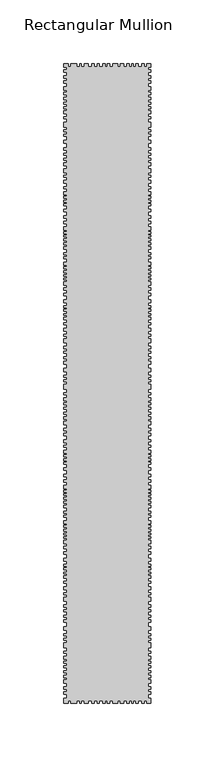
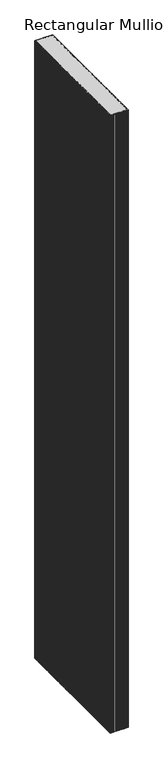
"""IFC4 building model written with IfcOpenShell, lengths in millimetres: member geometry, Rectangular Mullion : DucoSun Cubic Design louvre 500."""

from ifc_helpers import new_model, si_unit, frame, origin, place, context, project, spatial, polyline, outline, extrude, source, transform, mapped, element, save


def rectangular_mullion_82132d08(model_context):
    return source(origin(), model_context, "Body", "SweptSolid", [
        extrude(outline(polyline([(-68.0, 497.3782451), (-68.0, 500.0), (-64.4544414, 500.0), (-64.4544414, 498.0), (-62.627942, 498.0), (-62.627942, 500.0), (-57.9842994, 500.0), (-57.9842994, 498.0), (-55.8172663, 498.0), (-55.8172663, 500.0), (-54.3003431, 500.0), (-54.3003431, 498.0), (-51.9475642, 498.0), (-51.9475642, 500.0), (-48.8827601, 500.0), (-48.8827601, 498.0), (-46.0965746, 498.0), (-46.0965746, 500.0), (-44.3939057, 500.0), (-44.3939057, 498.0), (-42.0101692, 498.0), (-42.0101692, 500.0), (-40.5242036, 500.0), (-40.5242036, 498.0), (-37.4884678, 498.0), (-37.4884678, 500.0), (-35.7094289, 500.0), (-35.7094289, 498.0), (-34.0, 498.0), (-34.0, 500.0), (-32.1513512, 500.0), (-32.1513512, 498.0), (-29.7871022, 498.0), (-29.7871022, 500.0), (-26.0183489, 500.0), (-26.0183489, 498.0), (-23.9584092, 498.0), (-23.9584092, 500.0), (-21.2664425, 500.0), (-21.2664425, 498.0), (-18.9958271, 498.0), (-18.9958271, 500.0), (-17.1231547, 500.0), (-17.1231547, 498.0), (-15.0632149, 498.0), (-15.0632149, 500.0), (-13.7289358, 500.0), (-13.7289358, 498.0), (-11.6924045, 498.0), (-11.6924045, 500.0), (-10.1006329, 500.0), (-10.1006329, 498.0), (-7.0341317, 498.0), (-7.0341317, 500.0), (-5.0678256, 500.0), (-5.0678256, 498.0), (-3.1249279, 498.0), (-3.1249279, 500.0), (0.0, 500.0), (0.0, 497.3782451), (-2.0, 497.3782451), (-2.0, 495.4241521), (0.0, 495.4241521), (0.0, 493.6532553), (-2.0, 493.6532553), (-2.0, 490.9460223), (0.0, 490.9460223), (0.0, 488.9105087), (-2.0, 488.9105087), (-2.0, 486.7121541), (0.0, 486.7121541), (0.0, 485.0023227), (-2.0, 485.0023227), (-2.0, 482.3561551), (0.0, 482.3561551), (0.0, 479.3843053), (-2.0, 479.3843053), (-2.0, 477.8917893), (0.0, 477.8917893), (0.0, 475.8425117), (-2.0, 475.8425117), (-2.0, 473.8680636), (0.0, 473.8680636), (0.0, 472.1582322), (-2.0, 472.1582322), (-2.0, 470.0820083), (0.0, 470.0820083), (0.0, 468.3111116), (-2.0, 468.3111116), (-2.0, 466.4995045), (0.0, 466.4995045), (0.0, 465.0713495), (-2.0, 465.0713495), (-2.0, 463.4577392), (0.0, 463.4577392), (0.0, 461.0328231), (-2.0, 461.0328231), (-2.0, 458.5725067), (0.0, 458.5725067), (0.0, 457.0325964), (-2.0, 457.0325964), (-2.0, 454.5014796), (0.0, 454.5014796), (0.0, 450.4127524), (-2.0, 450.4127524), (-2.0, 448.4126391), (0.0, 448.4126391), (0.0, 446.8373286), (-2.0, 446.8373286), (-2.0, 444.9965163), (0.0, 444.9965163), (0.0, 443.3504053), (-2.0, 443.3504053), (-2.0, 440.3767855), (0.0, 440.3767855), (0.0, 437.9545244), (-2.0, 437.9545244), (-2.0, 434.5552168), (0.0, 434.5552168), (0.0, 432.5197032), (-2.0, 432.5197032), (-2.0, 430.239928), (0.0, 430.239928), (0.0, 428.6929377), (-2.0, 428.6929377), (-2.0, 426.4335177), (0.0, 426.4335177), (0.0, 424.5608452), (-2.0, 424.5608452), (-2.0, 422.6271073), (0.0, 422.6271073), (0.0, 420.5508835), (-2.0, 420.5508835), (-2.0, 418.0064916), (0.0, 418.0064916), (0.0, 414.9328661), (-2.0, 414.9328661), (-2.0, 412.9177077), (0.0, 412.9177077), (0.0, 411.4114277), (-2.0, 411.4114277), (-2.0, 408.9688114), (0.0, 408.9688114), (0.0, 406.7118273), (-2.0, 406.7118273), (-2.0, 403.8852623), (0.0, 403.8852623), (0.0, 402.4316003), (-2.0, 402.4316003), (-2.0, 399.9011516), (0.0, 399.9011516), (0.0, 397.8552569), (-2.0, 397.8552569), (-2.0, 396.6169522), (0.0, 396.6169522), (0.0, 395.0825312), (-2.0, 395.0825312), (-2.0, 393.4673512), (0.0, 393.4673512), (0.0, 392.0675286), (-2.0, 392.0675286), (-2.0, 390.5869469), (0.0, 390.5869469), (0.0, 389.1602046), (-2.0, 389.1602046), (-2.0, 386.3310055), (0.0, 386.3310055), (0.0, 384.2608252), (-2.0, 384.2608252), (-2.0, 381.1919832), (0.0, 381.1919832), (0.0, 379.2537672), (-2.0, 379.2537672), (-2.0, 376.9360418), (0.0, 376.9360418), (0.0, 375.0004598), (-2.0, 375.0004598), (-2.0, 372.9007258), (0.0, 372.9007258), (0.0, 370.1010805), (-2.0, 370.1010805), (-2.0, 368.8089365), (0.0, 368.8089365), (0.0, 367.3014351), (-2.0, 367.3014351), (-2.0, 366.0362108), (0.0, 366.0362108), (0.0, 365.0401831), (-2.0, 365.0401831), (-2.0, 363.2096458), (0.0, 363.2096458), (0.0, 361.6483051), (-2.0, 361.6483051), (-2.0, 360.1408038), (0.0, 360.1408038), (0.0, 358.6063828), (-2.0, 358.6063828), (-2.0, 357.0719618), (0.0, 357.0719618), (0.0, 355.0799064), (-2.0, 355.0799064), (-2.0, 352.3762692), (0.0, 352.3762692), (0.0, 350.8903036), (-2.0, 350.8903036), (-2.0, 349.1257194), (0.0, 349.1257194), (0.0, 347.6087962), (-2.0, 347.6087962), (-2.0, 344.8535683), (0.0, 344.8535683), (0.0, 342.7484504), (-2.0, 342.7484504), (-2.0, 341.4172729), (0.0, 341.4172729), (0.0, 339.9622649), (-2.0, 339.9622649), (-2.0, 338.3524688), (0.0, 338.3524688), (0.0, 336.8355456), (-2.0, 336.8355456), (-2.0, 335.1947919), (0.0, 335.1947919), (0.0, 333.9255296), (-2.0, 333.9255296), (-2.0, 332.5014792), (0.0, 332.5014792), (0.0, 331.1083865), (-2.0, 331.1083865), (-2.0, 329.6843361), (0.0, 329.6843361), (0.0, 327.0529387), (-2.0, 327.0529387), (-2.0, 324.9787784), (0.0, 324.9787784), (0.0, 323.0284485), (-2.0, 323.0284485), (-2.0, 320.7995001), (0.0, 320.7995001), (0.0, 318.8182126), (-2.0, 318.8182126), (-2.0, 315.6914933), (0.0, 315.6914933), (0.0, 313.4935025), (-2.0, 313.4935025), (-2.0, 310.954978), (0.0, 310.954978), (0.0, 309.4070971), (-2.0, 309.4070971), (-2.0, 308.1378348), (0.0, 308.1378348), (0.0, 306.4970812), (-2.0, 306.4970812), (-2.0, 304.8253698), (0.0, 304.8253698), (0.0, 303.3394042), (-2.0, 303.3394042), (-2.0, 302.0391843), (0.0, 302.0391843), (0.0, 300.0578969), (-2.0, 300.0578969), (-2.0, 297.6741604), (0.0, 297.6741604), (0.0, 296.0953219), (-2.0, 296.0953219), (-2.0, 293.3091364), (0.0, 293.3091364), (0.0, 291.0182728), (-2.0, 291.0182728), (-2.0, 288.572621), (0.0, 288.572621), (0.0, 287.1485707), (-2.0, 287.1485707), (-2.0, 285.0124951), (0.0, 285.0124951), (0.0, 282.1643944), (-2.0, 282.1643944), (-2.0, 279.3782089), (0.0, 279.3782089), (0.0, 277.427879), (-2.0, 277.427879), (-2.0, 275.4156339), (0.0, 275.4156339), (0.0, 273.6510498), (-2.0, 273.6510498), (-2.0, 271.1744404), (0.0, 271.1744404), (0.0, 269.6884748), (-2.0, 269.6884748), (-2.0, 267.5523993), (0.0, 267.5523993), (0.0, 265.4163237), (-2.0, 265.4163237), (-2.0, 262.1967316), (0.0, 262.1967316), (0.0, 259.5343765), (-2.0, 259.5343765), (-2.0, 256.7791486), (0.0, 256.7791486), (0.0, 255.0764797), (-2.0, 255.0764797), (-2.0, 252.9404041), (0.0, 252.9404041), (0.0, 251.6092266), (-2.0, 251.6092266), (-2.0, 249.5660239), (0.0, 249.5660239), (0.0, 245.512038), (-2.0, 245.512038), (-2.0, 243.0030092), (0.0, 243.0030092), (0.0, 241.3312979), (-2.0, 241.3312979), (-2.0, 239.0404342), (0.0, 239.0404342), (0.0, 236.5638249), (-2.0, 236.5638249), (-2.0, 235.015944), (0.0, 235.015944), (0.0, 233.5609361), (-2.0, 233.5609361), (-2.0, 231.5796486), (0.0, 231.5796486), (0.0, 230.0627254), (-2.0, 230.0627254), (-2.0, 227.8337769), (0.0, 227.8337769), (0.0, 226.1620656), (-2.0, 226.1620656), (-2.0, 224.0259901), (0.0, 224.0259901), (0.0, 222.0756602), (-2.0, 222.0756602), (-2.0, 220.6516099), (0.0, 220.6516099), (0.0, 217.7415939), (-2.0, 217.7415939), (-2.0, 215.2030693), (0.0, 215.2030693), (0.0, 213.1908242), (-2.0, 213.1908242), (-2.0, 211.2404944), (0.0, 211.2404944), (0.0, 209.1353764), (-2.0, 209.1353764), (-2.0, 206.2563181), (0.0, 206.2563181), (0.0, 204.6155644), (-2.0, 204.6155644), (-2.0, 201.7889994), (0.0, 201.7889994), (0.0, 200.3353374), (-2.0, 200.3353374), (-2.0, 197.8048887), (0.0, 197.8048887), (0.0, 195.758994), (-2.0, 195.758994), (-2.0, 194.5206893), (0.0, 194.5206893), (0.0, 192.9862683), (-2.0, 192.9862683), (-2.0, 191.3710883), (0.0, 191.3710883), (0.0, 189.9712657), (-2.0, 189.9712657), (-2.0, 188.490684), (0.0, 188.490684), (0.0, 187.0639417), (-2.0, 187.0639417), (-2.0, 184.2347426), (0.0, 184.2347426), (0.0, 182.1645623), (-2.0, 182.1645623), (-2.0, 179.0957203), (0.0, 179.0957203), (0.0, 177.1575043), (-2.0, 177.1575043), (-2.0, 174.8397789), (0.0, 174.8397789), (0.0, 172.9041969), (-2.0, 172.9041969), (-2.0, 170.8044629), (0.0, 170.8044629), (0.0, 168.0048176), (-2.0, 168.0048176), (-2.0, 166.7126736), (0.0, 166.7126736), (0.0, 165.2051722), (-2.0, 165.2051722), (-2.0, 163.9399479), (0.0, 163.9399479), (0.0, 162.9439202), (-2.0, 162.9439202), (-2.0, 161.1133829), (0.0, 161.1133829), (0.0, 159.5520422), (-2.0, 159.5520422), (-2.0, 158.0445409), (0.0, 158.0445409), (0.0, 156.5101199), (-2.0, 156.5101199), (-2.0, 154.9756989), (0.0, 154.9756989), (0.0, 152.9836435), (-2.0, 152.9836435), (-2.0, 150.2800063), (0.0, 150.2800063), (0.0, 148.7940407), (-2.0, 148.7940407), (-2.0, 147.0294565), (0.0, 147.0294565), (0.0, 145.5125333), (-2.0, 145.5125333), (-2.0, 142.7573054), (0.0, 142.7573054), (0.0, 140.6521875), (-2.0, 140.6521875), (-2.0, 139.32101), (0.0, 139.32101), (0.0, 137.866002), (-2.0, 137.866002), (-2.0, 136.2562059), (0.0, 136.2562059), (0.0, 134.7392827), (-2.0, 134.7392827), (-2.0, 133.098529), (0.0, 133.098529), (0.0, 131.8292667), (-2.0, 131.8292667), (-2.0, 130.4052163), (0.0, 130.4052163), (0.0, 129.0121236), (-2.0, 129.0121236), (-2.0, 127.5880732), (0.0, 127.5880732), (0.0, 124.9566758), (-2.0, 124.9566758), (-2.0, 122.8825155), (0.0, 122.8825155), (0.0, 120.9321856), (-2.0, 120.9321856), (-2.0, 118.7032372), (0.0, 118.7032372), (0.0, 116.7219497), (-2.0, 116.7219497), (-2.0, 113.5952304), (0.0, 113.5952304), (0.0, 111.3972396), (-2.0, 111.3972396), (-2.0, 108.8587151), (0.0, 108.8587151), (0.0, 107.3108342), (-2.0, 107.3108342), (-2.0, 106.0415719), (0.0, 106.0415719), (0.0, 104.4008183), (-2.0, 104.4008183), (-2.0, 102.7291069), (0.0, 102.7291069), (0.0, 101.2431413), (-2.0, 101.2431413), (-2.0, 99.9429214), (0.0, 99.9429214), (0.0, 97.961634), (-2.0, 97.961634), (-2.0, 95.5778975), (0.0, 95.5778975), (0.0, 93.999059), (-2.0, 93.999059), (-2.0, 91.2128735), (0.0, 91.2128735), (0.0, 88.9220099), (-2.0, 88.9220099), (-2.0, 86.4763581), (0.0, 86.4763581), (0.0, 85.0523078), (-2.0, 85.0523078), (-2.0, 82.9162322), (0.0, 82.9162322), (0.0, 80.0681315), (-2.0, 80.0681315), (-2.0, 77.281946), (0.0, 77.281946), (0.0, 75.3316161), (-2.0, 75.3316161), (-2.0, 73.319371), (0.0, 73.319371), (0.0, 71.5547869), (-2.0, 71.5547869), (-2.0, 69.0781775), (0.0, 69.0781775), (0.0, 67.5922119), (-2.0, 67.5922119), (-2.0, 65.4561364), (0.0, 65.4561364), (0.0, 63.3200608), (-2.0, 63.3200608), (-2.0, 60.1004687), (0.0, 60.1004687), (0.0, 57.4381136), (-2.0, 57.4381136), (-2.0, 54.6828857), (0.0, 54.6828857), (0.0, 52.9802168), (-2.0, 52.9802168), (-2.0, 50.8441412), (0.0, 50.8441412), (0.0, 49.5129637), (-2.0, 49.5129637), (-2.0, 47.469761), (0.0, 47.469761), (0.0, 43.4157751), (-2.0, 43.4157751), (-2.0, 40.9067463), (0.0, 40.9067463), (0.0, 39.235035), (-2.0, 39.235035), (-2.0, 36.9441713), (0.0, 36.9441713), (0.0, 34.467562), (-2.0, 34.467562), (-2.0, 32.9196811), (0.0, 32.9196811), (0.0, 31.4646731), (-2.0, 31.4646731), (-2.0, 29.4833857), (0.0, 29.4833857), (0.0, 27.9664625), (-2.0, 27.9664625), (-2.0, 25.737514), (0.0, 25.737514), (0.0, 24.0658027), (-2.0, 24.0658027), (-2.0, 21.9297272), (0.0, 21.9297272), (0.0, 19.9793973), (-2.0, 19.9793973), (-2.0, 18.555347), (0.0, 18.555347), (0.0, 15.645331), (-2.0, 15.645331), (-2.0, 13.1068064), (0.0, 13.1068064), (0.0, 11.0945613), (-2.0, 11.0945613), (-2.0, 9.1442315), (0.0, 9.1442315), (0.0, 7.0391135), (-2.0, 7.0391135), (-2.0, 4.0), (0.0, 4.0), (0.0, 0.0), (-3.1249279, 0.0), (-3.1249279, 2.0), (-5.0678256, 2.0), (-5.0678256, 0.0), (-7.0341317, 0.0), (-7.0341317, 2.0), (-10.1006329, 2.0), (-10.1006329, 0.0), (-11.6924045, 0.0), (-11.6924045, 2.0), (-13.7289358, 2.0), (-13.7289358, 0.0), (-15.0632149, 0.0), (-15.0632149, 2.0), (-17.1231547, 2.0), (-17.1231547, 0.0), (-18.9958271, 0.0), (-18.9958271, 2.0), (-21.2664425, 2.0), (-21.2664425, 0.0), (-23.9584092, 0.0), (-23.9584092, 2.0), (-26.0183489, 2.0), (-26.0183489, 0.0), (-29.7871022, 0.0), (-29.7871022, 2.0), (-32.1513512, 2.0), (-32.1513512, 0.0), (-34.0, 0.0), (-34.0, 2.0), (-35.7094289, 2.0), (-35.7094289, 0.0), (-37.4884678, 0.0), (-37.4884678, 2.0), (-40.5242036, 2.0), (-40.5242036, 0.0), (-42.0101692, 0.0), (-42.0101692, 2.0), (-44.3939057, 2.0), (-44.3939057, 0.0), (-46.0965746, 0.0), (-46.0965746, 2.0), (-48.8827601, 2.0), (-48.8827601, 0.0), (-51.9475642, 0.0), (-51.9475642, 2.0), (-54.3003431, 2.0), (-54.3003431, 0.0), (-55.8172663, 0.0), (-55.8172663, 2.0), (-57.9842994, 2.0), (-57.9842994, 0.0), (-62.627942, 0.0), (-62.627942, 2.0), (-64.4544414, 2.0), (-64.4544414, 0.0), (-68.0, 0.0), (-68.0, 4.0), (-66.0, 4.0), (-66.0, 7.0391135), (-68.0, 7.0391135), (-68.0, 9.1442315), (-66.0, 9.1442315), (-66.0, 11.0945613), (-68.0, 11.0945613), (-68.0, 13.1068064), (-66.0, 13.1068064), (-66.0, 15.645331), (-68.0, 15.645331), (-68.0, 18.555347), (-66.0, 18.555347), (-66.0, 19.9793973), (-68.0, 19.9793973), (-68.0, 21.9297272), (-66.0, 21.9297272), (-66.0, 24.0658027), (-68.0, 24.0658027), (-68.0, 25.737514), (-66.0, 25.737514), (-66.0, 27.9664625), (-68.0, 27.9664625), (-68.0, 29.4833857), (-66.0, 29.4833857), (-66.0, 31.4646731), (-68.0, 31.4646731), (-68.0, 32.9196811), (-66.0, 32.9196811), (-66.0, 34.467562), (-68.0, 34.467562), (-68.0, 36.9441713), (-66.0, 36.9441713), (-66.0, 39.235035), (-68.0, 39.235035), (-68.0, 40.9067463), (-66.0, 40.9067463), (-66.0, 43.4157751), (-68.0, 43.4157751), (-68.0, 47.469761), (-66.0, 47.469761), (-66.0, 49.5129637), (-68.0, 49.5129637), (-68.0, 50.8441412), (-66.0, 50.8441412), (-66.0, 52.9802168), (-68.0, 52.9802168), (-68.0, 54.6828857), (-66.0, 54.6828857), (-66.0, 57.4381136), (-68.0, 57.4381136), (-68.0, 60.1004687), (-66.0, 60.1004687), (-66.0, 63.3200608), (-68.0, 63.3200608), (-68.0, 65.4561364), (-66.0, 65.4561364), (-66.0, 67.5922119), (-68.0, 67.5922119), (-68.0, 69.0781775), (-66.0, 69.0781775), (-66.0, 71.5547869), (-68.0, 71.5547869), (-68.0, 73.319371), (-66.0, 73.319371), (-66.0, 75.3316161), (-68.0, 75.3316161), (-68.0, 77.281946), (-66.0, 77.281946), (-66.0, 80.0681315), (-68.0, 80.0681315), (-68.0, 82.9162322), (-66.0, 82.9162322), (-66.0, 85.0523078), (-68.0, 85.0523078), (-68.0, 86.4763581), (-66.0, 86.4763581), (-66.0, 88.9220099), (-68.0, 88.9220099), (-68.0, 91.2128735), (-66.0, 91.2128735), (-66.0, 93.999059), (-68.0, 93.999059), (-68.0, 95.5778975), (-66.0, 95.5778975), (-66.0, 97.961634), (-68.0, 97.961634), (-68.0, 99.9429214), (-66.0, 99.9429214), (-66.0, 101.2431413), (-68.0, 101.2431413), (-68.0, 102.7291069), (-66.0, 102.7291069), (-66.0, 104.4008183), (-68.0, 104.4008183), (-68.0, 106.0415719), (-66.0, 106.0415719), (-66.0, 107.3108342), (-68.0, 107.3108342), (-68.0, 108.8587151), (-66.0, 108.8587151), (-66.0, 111.3972396), (-68.0, 111.3972396), (-68.0, 113.5952304), (-66.0, 113.5952304), (-66.0, 116.7219497), (-68.0, 116.7219497), (-68.0, 118.7032372), (-66.0, 118.7032372), (-66.0, 120.9321856), (-68.0, 120.9321856), (-68.0, 122.8825155), (-66.0, 122.8825155), (-66.0, 124.9566758), (-68.0, 124.9566758), (-68.0, 127.5880732), (-66.0, 127.5880732), (-66.0, 129.0121236), (-68.0, 129.0121236), (-68.0, 130.4052163), (-66.0, 130.4052163), (-66.0, 131.8292667), (-68.0, 131.8292667), (-68.0, 133.098529), (-66.0, 133.098529), (-66.0, 134.7392827), (-68.0, 134.7392827), (-68.0, 136.2562059), (-66.0, 136.2562059), (-66.0, 137.866002), (-68.0, 137.866002), (-68.0, 139.32101), (-66.0, 139.32101), (-66.0, 140.6521875), (-68.0, 140.6521875), (-68.0, 142.7573054), (-66.0, 142.7573054), (-66.0, 145.5125333), (-68.0, 145.5125333), (-68.0, 147.0294565), (-66.0, 147.0294565), (-66.0, 148.7940407), (-68.0, 148.7940407), (-68.0, 150.2800063), (-66.0, 150.2800063), (-66.0, 152.9836435), (-68.0, 152.9836435), (-68.0, 154.9756989), (-66.0, 154.9756989), (-66.0, 156.5101199), (-68.0, 156.5101199), (-68.0, 158.0445409), (-66.0, 158.0445409), (-66.0, 159.5520422), (-68.0, 159.5520422), (-68.0, 161.1133829), (-66.0, 161.1133829), (-66.0, 162.9439202), (-68.0, 162.9439202), (-68.0, 163.9399479), (-66.0, 163.9399479), (-66.0, 165.2051722), (-68.0, 165.2051722), (-68.0, 166.7126736), (-66.0, 166.7126736), (-66.0, 168.0048176), (-68.0, 168.0048176), (-68.0, 170.8044629), (-66.0, 170.8044629), (-66.0, 172.9041969), (-68.0, 172.9041969), (-68.0, 174.8397789), (-66.0, 174.8397789), (-66.0, 177.1575043), (-68.0, 177.1575043), (-68.0, 179.0957203), (-66.0, 179.0957203), (-66.0, 182.1645623), (-68.0, 182.1645623), (-68.0, 184.2347426), (-66.0, 184.2347426), (-66.0, 187.0639417), (-68.0, 187.0639417), (-68.0, 188.490684), (-66.0, 188.490684), (-66.0, 189.9712657), (-68.0, 189.9712657), (-68.0, 191.3710883), (-66.0, 191.3710883), (-66.0, 192.9862683), (-68.0, 192.9862683), (-68.0, 194.5206893), (-66.0, 194.5206893), (-66.0, 195.758994), (-68.0, 195.758994), (-68.0, 197.8048887), (-66.0, 197.8048887), (-66.0, 200.3353374), (-68.0, 200.3353374), (-68.0, 201.7889994), (-66.0, 201.7889994), (-66.0, 203.7186411), (-68.0, 203.7186411), (-68.0, 206.2563181), (-66.0, 206.2563181), (-66.0, 209.1353764), (-68.0, 209.1353764), (-68.0, 211.2404944), (-66.0, 211.2404944), (-66.0, 213.1908242), (-68.0, 213.1908242), (-68.0, 215.2030693), (-66.0, 215.2030693), (-66.0, 217.7415939), (-68.0, 217.7415939), (-68.0, 220.6516099), (-66.0, 220.6516099), (-66.0, 222.0756602), (-68.0, 222.0756602), (-68.0, 224.0259901), (-66.0, 224.0259901), (-66.0, 226.1620656), (-68.0, 226.1620656), (-68.0, 227.8337769), (-66.0, 227.8337769), (-66.0, 230.0627254), (-68.0, 230.0627254), (-68.0, 231.5796486), (-66.0, 231.5796486), (-66.0, 233.5609361), (-68.0, 233.5609361), (-68.0, 235.015944), (-66.0, 235.015944), (-66.0, 236.5638249), (-68.0, 236.5638249), (-68.0, 239.0404342), (-66.0, 239.0404342), (-66.0, 241.3312979), (-68.0, 241.3312979), (-68.0, 243.0030092), (-66.0, 243.0030092), (-66.0, 245.512038), (-68.0, 245.512038), (-68.0, 249.5660239), (-66.0, 249.5660239), (-66.0, 251.6092266), (-68.0, 251.6092266), (-68.0, 252.9404041), (-66.0, 252.9404041), (-66.0, 255.0764797), (-68.0, 255.0764797), (-68.0, 256.7791486), (-66.0, 256.7791486), (-66.0, 259.5343765), (-68.0, 259.5343765), (-68.0, 262.1967316), (-66.0, 262.1967316), (-66.0, 265.4163237), (-68.0, 265.4163237), (-68.0, 267.5523993), (-66.0, 267.5523993), (-66.0, 269.6884748), (-68.0, 269.6884748), (-68.0, 271.1744404), (-66.0, 271.1744404), (-66.0, 273.6510498), (-68.0, 273.6510498), (-68.0, 275.4156339), (-66.0, 275.4156339), (-66.0, 277.427879), (-68.0, 277.427879), (-68.0, 279.3782089), (-66.0, 279.3782089), (-66.0, 282.1643944), (-68.0, 282.1643944), (-68.0, 285.0124951), (-66.0, 285.0124951), (-66.0, 287.1485707), (-68.0, 287.1485707), (-68.0, 288.572621), (-66.0, 288.572621), (-66.0, 291.0182728), (-68.0, 291.0182728), (-68.0, 293.3091364), (-66.0, 293.3091364), (-66.0, 296.0953219), (-68.0, 296.0953219), (-68.0, 297.6741604), (-66.0, 297.6741604), (-66.0, 300.0578969), (-68.0, 300.0578969), (-68.0, 302.0391843), (-66.0, 302.0391843), (-66.0, 303.3394042), (-68.0, 303.3394042), (-68.0, 304.8253698), (-66.0, 304.8253698), (-66.0, 306.4970812), (-68.0, 306.4970812), (-68.0, 308.1378348), (-66.0, 308.1378348), (-66.0, 309.4070971), (-68.0, 309.4070971), (-68.0, 310.954978), (-66.0, 310.954978), (-66.0, 313.4935025), (-68.0, 313.4935025), (-68.0, 315.6914933), (-66.0, 315.6914933), (-66.0, 318.8182126), (-68.0, 318.8182126), (-68.0, 320.7995001), (-66.0, 320.7995001), (-66.0, 323.0284485), (-68.0, 323.0284485), (-68.0, 324.9787784), (-66.0, 324.9787784), (-66.0, 327.0529387), (-68.0, 327.0529387), (-68.0, 329.6843361), (-66.0, 329.6843361), (-66.0, 331.1083865), (-68.0, 331.1083865), (-68.0, 332.5014792), (-66.0, 332.5014792), (-66.0, 333.9255296), (-68.0, 333.9255296), (-68.0, 335.1947919), (-66.0, 335.1947919), (-66.0, 336.8355456), (-68.0, 336.8355456), (-68.0, 338.3524688), (-66.0, 338.3524688), (-66.0, 339.9622649), (-68.0, 339.9622649), (-68.0, 341.4172729), (-66.0, 341.4172729), (-66.0, 342.7484504), (-68.0, 342.7484504), (-68.0, 344.8535683), (-66.0, 344.8535683), (-66.0, 347.6087962), (-68.0, 347.6087962), (-68.0, 349.1257194), (-66.0, 349.1257194), (-66.0, 350.8903036), (-68.0, 350.8903036), (-68.0, 352.3762692), (-66.0, 352.3762692), (-66.0, 355.0799064), (-68.0, 355.0799064), (-68.0, 357.0719618), (-66.0, 357.0719618), (-66.0, 358.6063828), (-68.0, 358.6063828), (-68.0, 360.1408038), (-66.0, 360.1408038), (-66.0, 361.6483051), (-68.0, 361.6483051), (-68.0, 363.2096458), (-66.0, 363.2096458), (-66.0, 365.0401831), (-68.0, 365.0401831), (-68.0, 366.0362108), (-66.0, 366.0362108), (-66.0, 367.3014351), (-68.0, 367.3014351), (-68.0, 368.8089365), (-66.0, 368.8089365), (-66.0, 370.1010805), (-68.0, 370.1010805), (-68.0, 372.9007258), (-66.0, 372.9007258), (-66.0, 375.0004598), (-68.0, 375.0004598), (-68.0, 376.9360418), (-66.0, 376.9360418), (-66.0, 379.2537672), (-68.0, 379.2537672), (-68.0, 381.1919832), (-66.0, 381.1919832), (-66.0, 384.2608252), (-68.0, 384.2608252), (-68.0, 386.3310055), (-66.0, 386.3310055), (-66.0, 389.1602046), (-68.0, 389.1602046), (-68.0, 390.5869469), (-66.0, 390.5869469), (-66.0, 392.0675286), (-68.0, 392.0675286), (-68.0, 393.4673512), (-66.0, 393.4673512), (-66.0, 395.0825312), (-68.0, 395.0825312), (-68.0, 396.6169522), (-66.0, 396.6169522), (-66.0, 397.8552569), (-68.0, 397.8552569), (-68.0, 399.9011516), (-66.0, 399.9011516), (-66.0, 402.4316003), (-68.0, 402.4316003), (-68.0, 403.8852623), (-66.0, 403.8852623), (-66.0, 406.7118273), (-68.0, 406.7118273), (-68.0, 408.9688114), (-66.0, 408.9688114), (-66.0, 411.4114277), (-68.0, 411.4114277), (-68.0, 412.9177077), (-66.0, 412.9177077), (-66.0, 414.9328661), (-68.0, 414.9328661), (-68.0, 418.0064916), (-66.0, 418.0064916), (-66.0, 420.5508835), (-68.0, 420.5508835), (-68.0, 422.6271073), (-66.0, 422.6271073), (-66.0, 424.5608452), (-68.0, 424.5608452), (-68.0, 426.4335177), (-66.0, 426.4335177), (-66.0, 428.6929377), (-68.0, 428.6929377), (-68.0, 430.239928), (-66.0, 430.239928), (-66.0, 432.5197032), (-68.0, 432.5197032), (-68.0, 434.5552168), (-66.0, 434.5552168), (-66.0, 437.9545244), (-68.0, 437.9545244), (-68.0, 440.3767855), (-66.0, 440.3767855), (-66.0, 443.3504053), (-68.0, 443.3504053), (-68.0, 444.9965163), (-66.0, 444.9965163), (-66.0, 446.8373286), (-68.0, 446.8373286), (-68.0, 448.4126391), (-66.0, 448.4126391), (-66.0, 450.4127524), (-68.0, 450.4127524), (-68.0, 454.5014796), (-66.0, 454.5014796), (-66.0, 457.0325964), (-68.0, 457.0325964), (-68.0, 458.5725067), (-66.0, 458.5725067), (-66.0, 461.0328231), (-68.0, 461.0328231), (-68.0, 463.4577392), (-66.0, 463.4577392), (-66.0, 465.0713495), (-68.0, 465.0713495), (-68.0, 466.4995045), (-66.0, 466.4995045), (-66.0, 468.3111116), (-68.0, 468.3111116), (-68.0, 470.0820083), (-66.0, 470.0820083), (-66.0, 472.1582322), (-68.0, 472.1582322), (-68.0, 473.8680636), (-66.0, 473.8680636), (-66.0, 475.8425117), (-68.0, 475.8425117), (-68.0, 477.8917893), (-66.0, 477.8917893), (-66.0, 479.3843053), (-68.0, 479.3843053), (-68.0, 482.3561551), (-66.0, 482.3561551), (-66.0, 485.0023227), (-68.0, 485.0023227), (-68.0, 486.7121541), (-66.0, 486.7121541), (-66.0, 488.9105087), (-68.0, 488.9105087), (-68.0, 490.9460223), (-66.0, 490.9460223), (-66.0, 493.6532553), (-68.0, 493.6532553), (-68.0, 495.4241521), (-66.0, 495.4241521), (-66.0, 497.3782451), (-68.0, 497.3782451)])), frame((0.0, 0.0, -2500.0), z_axis=(0.0, 0.0, 1.0), x_axis=(1.0, 0.0, 0.0)), (0.0, 0.0, 1.0), 2500.0),
    ])


if __name__ == "__main__":
    model = new_model("IFC4")
    model_context = context("Model", 3, world=origin())
    ifc_project = project(units=[si_unit("LENGTHUNIT", "METRE", prefix="MILLI")], contexts=[model_context])
    site = spatial("IfcSite", under=ifc_project)
    building = spatial("IfcBuilding", under=site)
    placement = place(None, origin())
    rectangular_mullion_shape = rectangular_mullion_82132d08(model_context)
    element("IfcMember", 1, ObjectType="Rectangular Mullion : DucoSun Cubic Design louvre 500", at=placement, inside=building, context=model_context, shape_type="MappedRepresentation", body=[
        mapped(rectangular_mullion_shape, transform((0.0, 0.0, 0.0), x_axis=(1.0, 0.0, 0.0), y_axis=(0.0, 1.0, 0.0), z_axis=(0.0, 0.0, 1.0))),
    ])
    save(model, "model.ifc")
